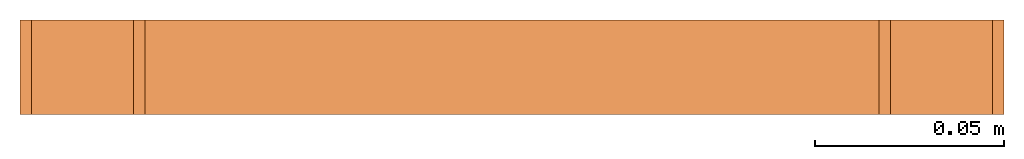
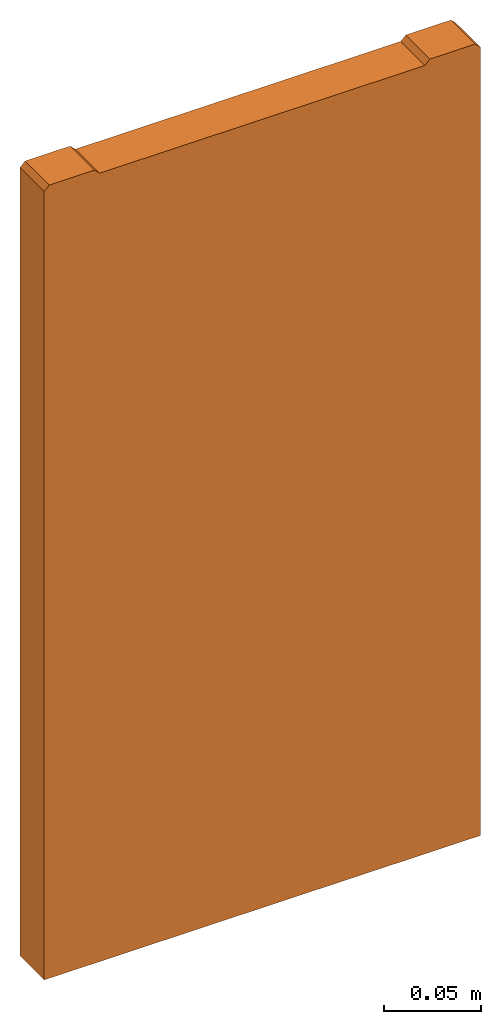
# One storey: 1 proxy.
"""IFC2X3 building model written with IfcOpenShell, lengths in millimetres."""

from ifc_helpers import new_model, entity, si_unit, converted_unit, direction, frame, origin, place, context, subcontext, project, spatial, polyline, outline, extrude, source, transform, mapped, material, element, save


model = new_model("IFC2X3")

# Units and contexts
model_context = context("Model", 3, precision=1e-06, world=origin(), true_north=direction((2.0, 6.12303176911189e-17, 1.0)))
context_of_model = context(None, 3, precision=1e-06, world=origin(), true_north=direction((2.0, 6.12303176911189e-17, 1.0)))
body_context = subcontext(model_context, "Body", "Model", "MODEL_VIEW")
ifc_project = project(units=[si_unit("LENGTHUNIT", "METRE", prefix="MILLI"), si_unit("AREAUNIT", "SQUARE_METRE", prefix="MILLI"), si_unit("VOLUMEUNIT", "CUBIC_METRE", prefix="MILLI"), converted_unit("PLANEANGLEUNIT", "DEGREE", entity("IfcRatioMeasure", 0.0174532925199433), si_unit("PLANEANGLEUNIT", "RADIAN"), dimensions=[0, 0, 0, 0, 0, 0, 0]), si_unit("TIMEUNIT", "SECOND")], contexts=[model_context, context_of_model])

# Site, building, storey
site_placement = place(None, origin())
site = spatial("IfcSite", under=ifc_project, at=site_placement, Name="Default", CompositionType="ELEMENT")
building_placement = place(site_placement, origin())
building = spatial("IfcBuilding", under=site, at=building_placement, CompositionType="ELEMENT")
storey_placement = place(building_placement, frame((0.0, 0.0, -4600.0)))
storey = spatial("IfcBuildingStorey", under=building, at=storey_placement, Name="B.O. Footing", CompositionType="ELEMENT", Elevation=-4600.0)

# Proxy
ifc_material = material(Name="Acetal Resin, Black")
shared_shape = source(origin(), body_context, "Body", "SweptSolid", [
    extrude(outline(polyline([(-398.799946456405, -130.0), (98.1999866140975, -130.0), (101.199986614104, -127.0), (101.199986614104, -100.0), (98.1999866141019, -97.0), (98.1999866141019, 97.0), (101.1999866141, 100.0), (101.1999866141, 127.0), (98.1999866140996, 130.0), (-398.799946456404, 130.0), (-398.799946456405, -130.0)])), frame((0.0, 0.0, -101.199986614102), z_axis=(0.0, 1.0, 0.0), x_axis=(0.0, 0.0, 1.0)), (0.0, 0.0, 1.0), 25.0),
])
proxy_placement = place(storey_placement, frame((-71694.9775722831, 28686.5082893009, 300.0)))
element("IfcBuildingElementProxy", 1, at=proxy_placement, inside=storey, material=ifc_material, Name="Civil-Drainage-Channel-ACO-RoadDrain 200:33306 - PD200 F 306 Closing endcap:33306 - PD200 F 306 Closing endcap", ObjectType="33306 - PD200 F 306 Closing endcap", CompositionType="ELEMENT", context=body_context, shape_type="MappedRepresentation", body=[
    mapped(shared_shape, transform((0.0, 0.0, 0.0), scale=1.0)),
])

save(model, "model.ifc")
